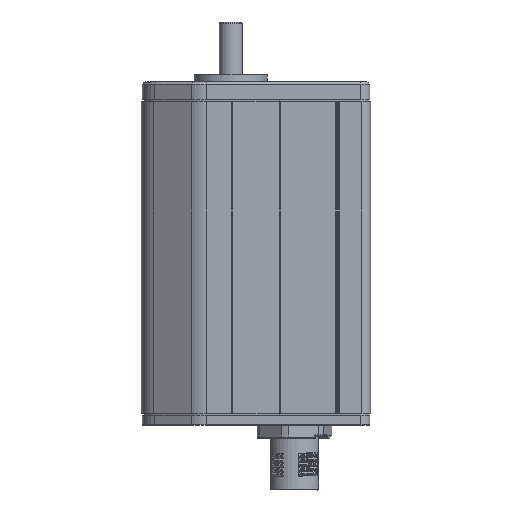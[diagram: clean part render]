
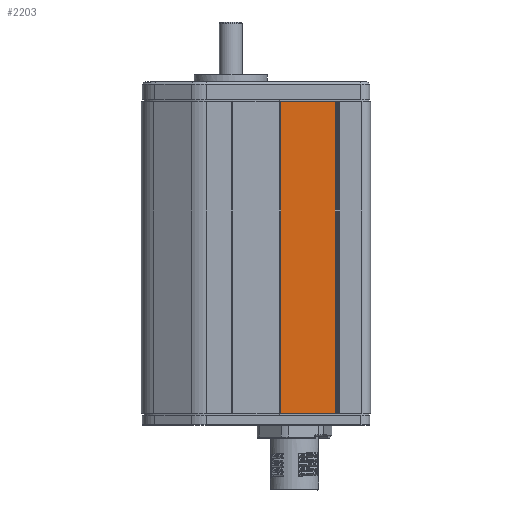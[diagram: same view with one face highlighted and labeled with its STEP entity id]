
A CAD part, left-side view. The second image highlights one B-rep face of the part: STEP entity #2203.
In plain terms, the highlighted planar face has unit normal (-1, 0, 0).
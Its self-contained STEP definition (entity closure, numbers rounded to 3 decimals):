
#1048=FACE_OUTER_BOUND('',#7943,.T.);
#2203=ADVANCED_FACE('',(#1048),#3346,.F.);
#3346=PLANE('',#21326);
#4804=LINE('',#29181,#6248);
#4806=LINE('',#29190,#6250);
#5118=LINE('',#30418,#6562);
#5132=LINE('',#30457,#6576);
#6248=VECTOR('',#23342,1.);
#6250=VECTOR('',#23350,1.);
#6562=VECTOR('',#24298,1.);
#6576=VECTOR('',#24338,1.);
#7943=EDGE_LOOP('',(#10433,#10434,#10435,#10436));
#10433=ORIENTED_EDGE('',*,*,#17999,.T.);
#10434=ORIENTED_EDGE('',*,*,#17490,.T.);
#10435=ORIENTED_EDGE('',*,*,#17979,.T.);
#10436=ORIENTED_EDGE('',*,*,#17494,.T.);
#15536=VERTEX_POINT('',#29173);
#15540=VERTEX_POINT('',#29180);
#15544=VERTEX_POINT('',#29189);
#15545=VERTEX_POINT('',#29191);
#17490=EDGE_CURVE('',#15536,#15540,#4804,.T.);
#17494=EDGE_CURVE('',#15545,#15544,#4806,.T.);
#17979=EDGE_CURVE('',#15540,#15545,#5118,.T.);
#17999=EDGE_CURVE('',#15544,#15536,#5132,.T.);
#21326=AXIS2_PLACEMENT_3D('',#30465,#24352,#24353);
#23342=DIRECTION('',(0.,-1.,0.));
#23350=DIRECTION('',(0.,1.,0.));
#24298=DIRECTION('',(0.,0.,1.));
#24338=DIRECTION('',(0.,0.,-1.));
#24352=DIRECTION('',(1.,0.,0.));
#24353=DIRECTION('',(0.,1.,0.));
#29173=CARTESIAN_POINT('',(-20.8,-10.846,-72.4));
#29180=CARTESIAN_POINT('',(-20.8,-22.8,-72.4));
#29181=CARTESIAN_POINT('',(-20.8,7.,-72.4));
#29189=CARTESIAN_POINT('',(-20.8,-10.846,-4.4));
#29190=CARTESIAN_POINT('',(-20.8,7.,-4.4));
#29191=CARTESIAN_POINT('',(-20.8,-22.8,-4.4));
#30418=CARTESIAN_POINT('',(-20.8,-22.8,-4.65));
#30457=CARTESIAN_POINT('',(-20.8,-10.846,-72.45));
#30465=CARTESIAN_POINT('',(-20.8,7.,-4.65));
